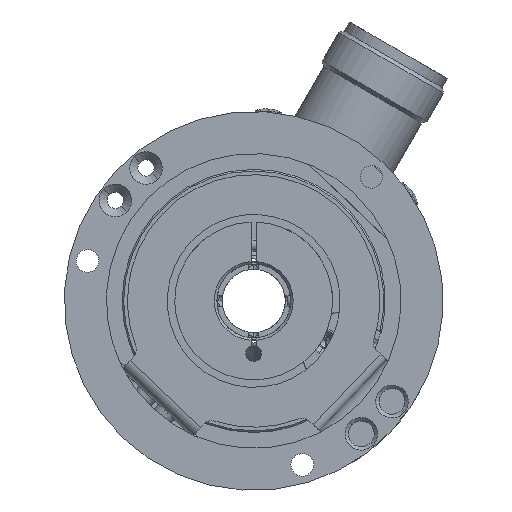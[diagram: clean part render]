
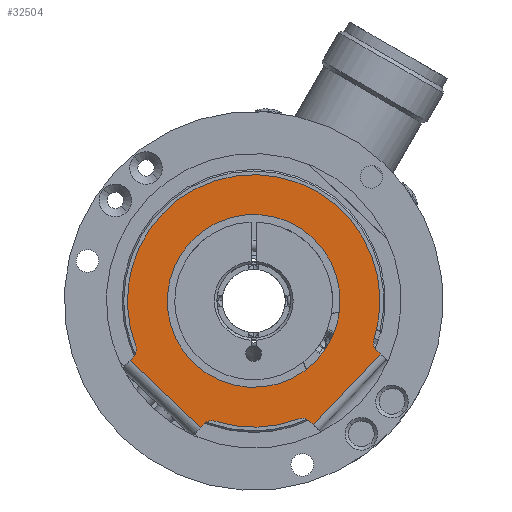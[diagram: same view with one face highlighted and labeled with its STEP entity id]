
A CAD part, left-side view. The second image highlights one B-rep face of the part: STEP entity #32504.
In plain terms, the highlighted planar face has unit normal (-1, 0, 0).
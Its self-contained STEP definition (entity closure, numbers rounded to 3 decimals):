
#3878 = DIRECTION ( 'NONE',  ( 0., -0.725, -0.688 ) ) ;
#3879 = VECTOR ( 'NONE', #3878, 1000. ) ;
#3880 = CARTESIAN_POINT ( 'NONE',  ( -2.2, -9.697, -21.954 ) ) ;
#3881 = LINE ( 'NONE', #3880, #3879 ) ;
#4140 = CARTESIAN_POINT ( 'NONE',  ( -2.2, 22.427, -8.547 ) ) ;
#4141 = CARTESIAN_POINT ( 'NONE',  ( -2.2, 17.409, 16.521 ) ) ;
#4142 = DIRECTION ( 'NONE',  ( 0., -0.725, -0.688 ) ) ;
#4143 = DIRECTION ( 'NONE',  ( -1., 0., 0. ) ) ;
#4144 = CARTESIAN_POINT ( 'NONE',  ( -2.2, 0., 0. ) ) ;
#4145 = AXIS2_PLACEMENT_3D ( 'NONE', #4144, #4143, #4142 ) ;
#4149 = CIRCLE ( 'NONE', #4145, 24. ) ;
#4150 = CARTESIAN_POINT ( 'NONE',  ( -2.2, -11.914, -11.306 ) ) ;
#4151 = CARTESIAN_POINT ( 'NONE',  ( -2.2, 11.914, 11.306 ) ) ;
#4152 = DIRECTION ( 'NONE',  ( 0., -0.725, -0.688 ) ) ;
#4153 = DIRECTION ( 'NONE',  ( -1., 0., 0. ) ) ;
#4154 = CARTESIAN_POINT ( 'NONE',  ( -2.2, 0., 0. ) ) ;
#4155 = AXIS2_PLACEMENT_3D ( 'NONE', #4154, #4153, #4152 ) ;
#4160 = CIRCLE ( 'NONE', #4155, 16.425 ) ;
#4207 = CARTESIAN_POINT ( 'NONE',  ( -2.2, 9.425, -23.37 ) ) ;
#4247 = FACE_BOUND ( 'NONE', #32570, .T. ) ;
#4248 = FACE_OUTER_BOUND ( 'NONE', #32505, .T. ) ;
#4249 = CARTESIAN_POINT ( 'NONE',  ( -2.2, -10.636, -22.845 ) ) ;
#4250 = DIRECTION ( 'NONE',  ( 0., -0.725, -0.688 ) ) ;
#4251 = DIRECTION ( 'NONE',  ( 1., 0., 0. ) ) ;
#4252 = CARTESIAN_POINT ( 'NONE',  ( -2.2, -9.259, -24.296 ) ) ;
#4253 = AXIS2_PLACEMENT_3D ( 'NONE', #4252, #4251, #4250 ) ;
#4254 = CIRCLE ( 'NONE', #4253, 2. ) ;
#4255 = CARTESIAN_POINT ( 'NONE',  ( -2.2, -8.547, -22.427 ) ) ;
#4256 = DIRECTION ( 'NONE',  ( 0., -0.725, -0.688 ) ) ;
#4257 = DIRECTION ( 'NONE',  ( -1., 0., 0. ) ) ;
#4258 = CARTESIAN_POINT ( 'NONE',  ( -2.2, 0., 0. ) ) ;
#4259 = AXIS2_PLACEMENT_3D ( 'NONE', #4258, #4257, #4256 ) ;
#4260 = CIRCLE ( 'NONE', #4259, 24. ) ;
#4261 = CARTESIAN_POINT ( 'NONE',  ( -2.2, 7.361, -22.843 ) ) ;
#4262 = DIRECTION ( 'NONE',  ( 0., -0.725, -0.688 ) ) ;
#4263 = DIRECTION ( 'NONE',  ( 1., 0., 0. ) ) ;
#4264 = CARTESIAN_POINT ( 'NONE',  ( -2.2, 7.975, -24.747 ) ) ;
#4265 = AXIS2_PLACEMENT_3D ( 'NONE', #4264, #4263, #4262 ) ;
#4266 = CIRCLE ( 'NONE', #4265, 2. ) ;
#4267 = CARTESIAN_POINT ( 'NONE',  ( -2.2, 16.796, -17.699 ) ) ;
#4268 = LINE ( 'NONE', #4267, #4320 ) ;
#4269 = CARTESIAN_POINT ( 'NONE',  ( -2.2, 23.506, -11.332 ) ) ;
#4270 = DIRECTION ( 'NONE',  ( 0., 0.688, -0.725 ) ) ;
#4271 = VECTOR ( 'NONE', #4270, 1000. ) ;
#4272 = CARTESIAN_POINT ( 'NONE',  ( -2.2, 21.954, -9.697 ) ) ;
#4273 = LINE ( 'NONE', #4272, #4271 ) ;
#4274 = CARTESIAN_POINT ( 'NONE',  ( -2.2, 22.845, -10.636 ) ) ;
#4275 = DIRECTION ( 'NONE',  ( 0., -0.725, -0.688 ) ) ;
#4276 = DIRECTION ( 'NONE',  ( 1., 0., 0. ) ) ;
#4277 = CARTESIAN_POINT ( 'NONE',  ( -2.2, 24.296, -9.259 ) ) ;
#4278 = AXIS2_PLACEMENT_3D ( 'NONE', #4277, #4276, #4275 ) ;
#4279 = CIRCLE ( 'NONE', #4278, 2. ) ;
#4280 = CARTESIAN_POINT ( 'NONE',  ( -2.2, -22.843, -7.361 ) ) ;
#4281 = DIRECTION ( 'NONE',  ( 0., -0.725, -0.688 ) ) ;
#4282 = DIRECTION ( 'NONE',  ( -1., 0., 0. ) ) ;
#4283 = CARTESIAN_POINT ( 'NONE',  ( -2.2, 0., 0. ) ) ;
#4284 = AXIS2_PLACEMENT_3D ( 'NONE', #4283, #4282, #4281 ) ;
#4285 = DIRECTION ( 'NONE',  ( 0., -0.725, -0.688 ) ) ;
#4286 = DIRECTION ( 'NONE',  ( -1., 0., 0. ) ) ;
#4287 = CARTESIAN_POINT ( 'NONE',  ( -2.2, 0., 0. ) ) ;
#4288 = AXIS2_PLACEMENT_3D ( 'NONE', #4287, #4286, #4285 ) ;
#4289 = CIRCLE ( 'NONE', #4284, 24. ) ;
#4290 = PLANE ( 'NONE',  #4288 ) ;
#4318 = CARTESIAN_POINT ( 'NONE',  ( -2.2, 10.086, -24.066 ) ) ;
#4319 = DIRECTION ( 'NONE',  ( 0., -0.725, -0.688 ) ) ;
#4320 = VECTOR ( 'NONE', #4319, 1000. ) ;
#4424 = DIRECTION ( 'NONE',  ( 0., -0.725, -0.688 ) ) ;
#4425 = DIRECTION ( 'NONE',  ( -1., 0., 0. ) ) ;
#4426 = CARTESIAN_POINT ( 'NONE',  ( -2.2, 0., 0. ) ) ;
#4427 = AXIS2_PLACEMENT_3D ( 'NONE', #4426, #4425, #4424 ) ;
#4428 = CIRCLE ( 'NONE', #4427, 16.425 ) ;
#4430 = DIRECTION ( 'NONE',  ( 0., -0.725, -0.688 ) ) ;
#4431 = DIRECTION ( 'NONE',  ( 1., 0., 0. ) ) ;
#4432 = CARTESIAN_POINT ( 'NONE',  ( -2.2, -24.747, -7.975 ) ) ;
#4433 = AXIS2_PLACEMENT_3D ( 'NONE', #4432, #4431, #4430 ) ;
#4434 = CIRCLE ( 'NONE', #4433, 2. ) ;
#4435 = CARTESIAN_POINT ( 'NONE',  ( -2.2, -23.37, -9.425 ) ) ;
#4436 = DIRECTION ( 'NONE',  ( 0., 0.725, 0.688 ) ) ;
#4437 = VECTOR ( 'NONE', #4436, 1000. ) ;
#4438 = CARTESIAN_POINT ( 'NONE',  ( -2.2, -22.431, -8.534 ) ) ;
#4439 = LINE ( 'NONE', #4438, #4437 ) ;
#4440 = CARTESIAN_POINT ( 'NONE',  ( -2.2, -24.066, -10.086 ) ) ;
#4441 = DIRECTION ( 'NONE',  ( 0., -0.688, 0.725 ) ) ;
#4442 = VECTOR ( 'NONE', #4441, 1000. ) ;
#4443 = CARTESIAN_POINT ( 'NONE',  ( -2.2, -24.066, -10.086 ) ) ;
#4444 = LINE ( 'NONE', #4443, #4442 ) ;
#4457 = DIRECTION ( 'NONE',  ( 0., -0.688, 0.725 ) ) ;
#4458 = VECTOR ( 'NONE', #4457, 1000. ) ;
#4459 = CARTESIAN_POINT ( 'NONE',  ( -2.2, 8.534, -22.431 ) ) ;
#4460 = LINE ( 'NONE', #4459, #4458 ) ;
#30738 = VERTEX_POINT ( 'NONE', #45672 ) ;
#32374 = EDGE_CURVE ( 'NONE', #32501, #30738, #3881, .T. ) ;
#32451 = EDGE_CURVE ( 'NONE', #32452, #32453, #4149, .T. ) ;
#32452 = VERTEX_POINT ( 'NONE', #4141 ) ;
#32453 = VERTEX_POINT ( 'NONE', #4140 ) ;
#32467 = EDGE_CURVE ( 'NONE', #32468, #32469, #4160, .T. ) ;
#32468 = VERTEX_POINT ( 'NONE', #4151 ) ;
#32469 = VERTEX_POINT ( 'NONE', #4150 ) ;
#32492 = VERTEX_POINT ( 'NONE', #4207 ) ;
#32493 = ORIENTED_EDGE ( 'NONE', *, *, #32494, .T. ) ;
#32494 = EDGE_CURVE ( 'NONE', #32492, #32495, #4266, .T. ) ;
#32495 = VERTEX_POINT ( 'NONE', #4261 ) ;
#32496 = ORIENTED_EDGE ( 'NONE', *, *, #32497, .T. ) ;
#32497 = EDGE_CURVE ( 'NONE', #32495, #32498, #4260, .T. ) ;
#32498 = VERTEX_POINT ( 'NONE', #4255 ) ;
#32499 = ORIENTED_EDGE ( 'NONE', *, *, #32500, .T. ) ;
#32500 = EDGE_CURVE ( 'NONE', #32498, #32501, #4254, .T. ) ;
#32501 = VERTEX_POINT ( 'NONE', #4249 ) ;
#32502 = ORIENTED_EDGE ( 'NONE', *, *, #32374, .T. ) ;
#32504 = ADVANCED_FACE ( 'NONE', ( #4248, #4247 ), #4290, .T. ) ;
#32505 = EDGE_LOOP ( 'NONE', ( #32506, #32509, #32510, #32513, #32516, #32577, #32493, #32496, #32499, #32502, #32562, #32565, #32568 ) ) ;
#32506 = ORIENTED_EDGE ( 'NONE', *, *, #32507, .T. ) ;
#32507 = EDGE_CURVE ( 'NONE', #32508, #32452, #4289, .T. ) ;
#32508 = VERTEX_POINT ( 'NONE', #4280 ) ;
#32509 = ORIENTED_EDGE ( 'NONE', *, *, #32451, .T. ) ;
#32510 = ORIENTED_EDGE ( 'NONE', *, *, #32511, .T. ) ;
#32511 = EDGE_CURVE ( 'NONE', #32453, #32512, #4279, .T. ) ;
#32512 = VERTEX_POINT ( 'NONE', #4274 ) ;
#32513 = ORIENTED_EDGE ( 'NONE', *, *, #32514, .T. ) ;
#32514 = EDGE_CURVE ( 'NONE', #32512, #32515, #4273, .T. ) ;
#32515 = VERTEX_POINT ( 'NONE', #4269 ) ;
#32516 = ORIENTED_EDGE ( 'NONE', *, *, #32517, .T. ) ;
#32517 = EDGE_CURVE ( 'NONE', #32515, #32518, #4268, .T. ) ;
#32518 = VERTEX_POINT ( 'NONE', #4318 ) ;
#32562 = ORIENTED_EDGE ( 'NONE', *, *, #32563, .T. ) ;
#32563 = EDGE_CURVE ( 'NONE', #30738, #32564, #4444, .T. ) ;
#32564 = VERTEX_POINT ( 'NONE', #4440 ) ;
#32565 = ORIENTED_EDGE ( 'NONE', *, *, #32566, .T. ) ;
#32566 = EDGE_CURVE ( 'NONE', #32564, #32567, #4439, .T. ) ;
#32567 = VERTEX_POINT ( 'NONE', #4435 ) ;
#32568 = ORIENTED_EDGE ( 'NONE', *, *, #32569, .T. ) ;
#32569 = EDGE_CURVE ( 'NONE', #32567, #32508, #4434, .T. ) ;
#32570 = EDGE_LOOP ( 'NONE', ( #32571, #32572 ) ) ;
#32571 = ORIENTED_EDGE ( 'NONE', *, *, #32467, .F. ) ;
#32572 = ORIENTED_EDGE ( 'NONE', *, *, #32573, .F. ) ;
#32573 = EDGE_CURVE ( 'NONE', #32469, #32468, #4428, .T. ) ;
#32577 = ORIENTED_EDGE ( 'NONE', *, *, #32578, .T. ) ;
#32578 = EDGE_CURVE ( 'NONE', #32518, #32492, #4460, .T. ) ;
#45672 = CARTESIAN_POINT ( 'NONE',  ( -2.2, -11.332, -23.506 ) ) ;
